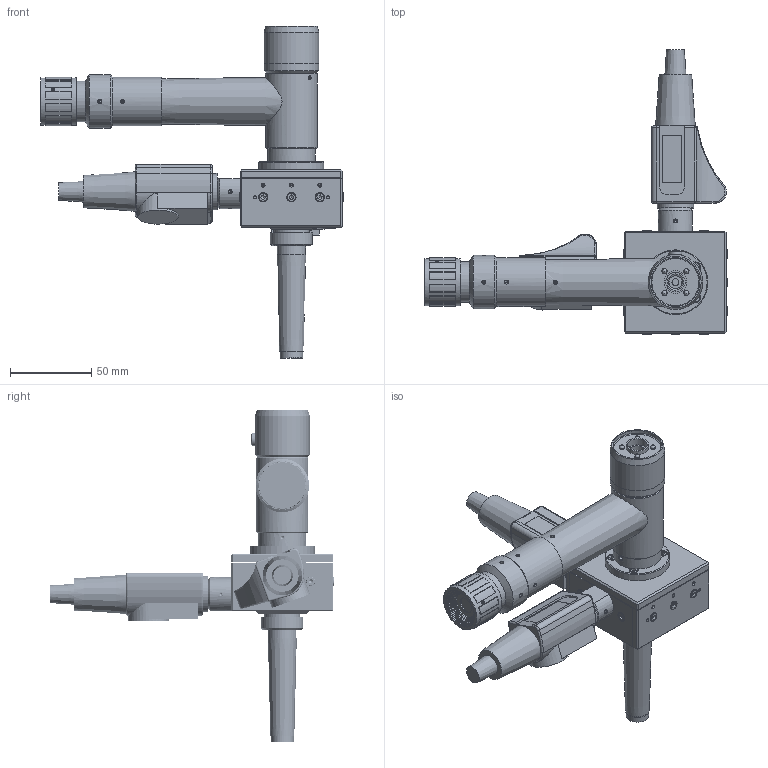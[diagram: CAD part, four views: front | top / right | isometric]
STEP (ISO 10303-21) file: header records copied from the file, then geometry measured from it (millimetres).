
FILE_DESCRIPTION(/* description */ (''),/* implementation_level */ '2;1');
FILE_NAME(/* name */ 'S:\Bureau-Technique\Statif\MA 110-006-01.stp',/* time_stamp */ '2017-04-27T08:12:34+02:00',/* author */ ('ms'),/* organization */ ('Marcel Aubert'),/* preprocessor_version */ 'ST-DEVELOPER v16.5',/* originating_system */ 'Autodesk Inventor 2017',/* authorisation */ '');
FILE_SCHEMA (('AUTOMOTIVE_DESIGN { 1 0 10303 214 3 1 1 }'));
Products named in the file (1): Pièce1
Bounding box: 186.51 x 175.3 x 204.5 mm (x, y, z)
Volume: 360003 mm3; surface area: 125920 mm2
Topology: 18 solids, 89 shells, 1924 faces, 4659 edges, 3031 vertices
Faces by surface type: plane 1070, cylinder 518, cone 221, torus 77, sphere 26, bspline 12
Full cylindrical faces by diameter (mm): 0.35 x4, 0.6 x24, 0.8 x18, 1.567 x8, 1.75 x1, 2 x14, 2.013 x6, 2.459 x62, 2.5 x4, 3 x38, 3.2 x11, 3.242 x8, 3.3 x20, 3.6 x12, 4 x4, 4.459 x1, 4.5 x4, 4.7 x1, 4.9 x2, 5 x1, 5.5 x22, 5.7 x6, 5.9 x1, 6 x17, 6.4 x1, 6.5 x6, 6.6 x1, 8 x2, 8.376 x1, 10 x3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
Entity records: 60989 total; most frequent: CARTESIAN_POINT 18683, DIRECTION 8409, ORIENTED_EDGE 7238, EDGE_CURVE 3581, AXIS2_PLACEMENT_3D 3359, EDGE_LOOP 2969, VERTEX_POINT 2624, STYLED_ITEM 1935
